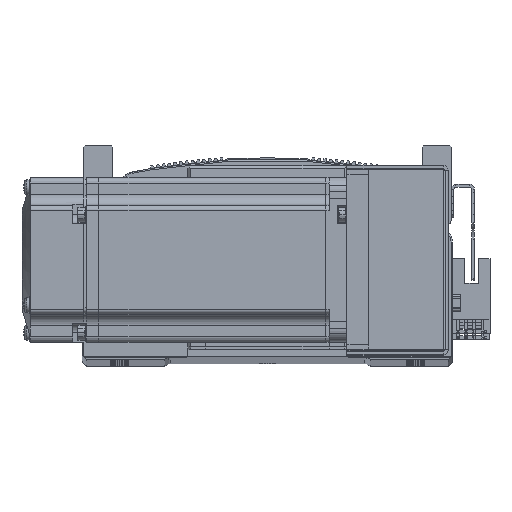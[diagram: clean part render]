
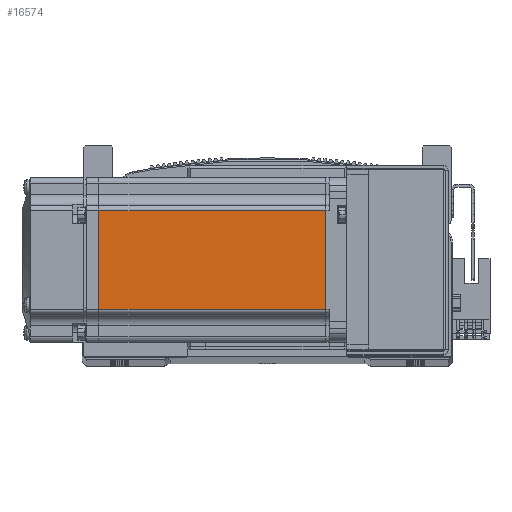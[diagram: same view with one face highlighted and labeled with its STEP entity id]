
A CAD part, top view. The second image highlights one B-rep face of the part: STEP entity #16574.
In plain terms, the highlighted planar face has unit normal (0, 0, 1) as drawn and (0, -1, 0) by its records, which use the part's own axes.
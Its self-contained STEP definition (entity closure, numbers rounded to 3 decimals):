
#7888 = ORIENTED_EDGE ( 'NONE', *, *, #28326, .F. ) ;
#7916 = ORIENTED_EDGE ( 'NONE', *, *, #28341, .F. ) ;
#7938 = ORIENTED_EDGE ( 'NONE', *, *, #28343, .T. ) ;
#7992 = ORIENTED_EDGE ( 'NONE', *, *, #28330, .T. ) ;
#16574 = ADVANCED_FACE ( 'NONE', ( #54438 ), #85576, .T. ) ;
#22491 = CARTESIAN_POINT ( 'NONE',  ( -7.75, -30., 18. ) ) ;
#22533 = CARTESIAN_POINT ( 'NONE',  ( -7.75, -30., -18. ) ) ;
#22547 = CARTESIAN_POINT ( 'NONE',  ( -90.45, -30., 18. ) ) ;
#22557 = CARTESIAN_POINT ( 'NONE',  ( -90.45, -30., -18. ) ) ;
#28326 = EDGE_CURVE ( 'NONE', #62044, #62016, #51158, .T. ) ;
#28330 = EDGE_CURVE ( 'NONE', #62070, #62074, #51176, .T. ) ;
#28341 = EDGE_CURVE ( 'NONE', #62016, #62074, #51199, .T. ) ;
#28343 = EDGE_CURVE ( 'NONE', #62044, #62070, #51200, .T. ) ;
#51148 = VECTOR ( 'NONE', #60736, 1000. ) ;
#51158 = LINE ( 'NONE', #60616, #51173 ) ;
#51164 = VECTOR ( 'NONE', #60630, 1000. ) ;
#51173 = VECTOR ( 'NONE', #60604, 1000. ) ;
#51176 = LINE ( 'NONE', #60610, #51164 ) ;
#51194 = VECTOR ( 'NONE', #60687, 1000. ) ;
#51199 = LINE ( 'NONE', #60753, #51194 ) ;
#51200 = LINE ( 'NONE', #60718, #51148 ) ;
#54438 = FACE_OUTER_BOUND ( 'NONE', #62478, .T. ) ;
#60604 = DIRECTION ( 'NONE',  ( 0., 0., -1. ) ) ;
#60610 = CARTESIAN_POINT ( 'NONE',  ( -90.45, -30., 0. ) ) ;
#60616 = CARTESIAN_POINT ( 'NONE',  ( -7.75, -30., 0. ) ) ;
#60630 = DIRECTION ( 'NONE',  ( 0., 0., -1. ) ) ;
#60687 = DIRECTION ( 'NONE',  ( -1., 0., 0. ) ) ;
#60718 = CARTESIAN_POINT ( 'NONE',  ( -6.5, -30., 18. ) ) ;
#60736 = DIRECTION ( 'NONE',  ( -1., 0., 0. ) ) ;
#60753 = CARTESIAN_POINT ( 'NONE',  ( -6.5, -30., -18. ) ) ;
#62016 = VERTEX_POINT ( 'NONE', #22533 ) ;
#62044 = VERTEX_POINT ( 'NONE', #22491 ) ;
#62070 = VERTEX_POINT ( 'NONE', #22547 ) ;
#62074 = VERTEX_POINT ( 'NONE', #22557 ) ;
#62478 = EDGE_LOOP ( 'NONE', ( #7888, #7938, #7992, #7916 ) ) ;
#81205 = AXIS2_PLACEMENT_3D ( 'NONE', #85633, #85626, #85607 ) ;
#85576 = PLANE ( 'NONE',  #81205 ) ;
#85607 = DIRECTION ( 'NONE',  ( 0., 0., -1. ) ) ;
#85626 = DIRECTION ( 'NONE',  ( 0., -1., 0. ) ) ;
#85633 = CARTESIAN_POINT ( 'NONE',  ( -6.5, -30., -25. ) ) ;
